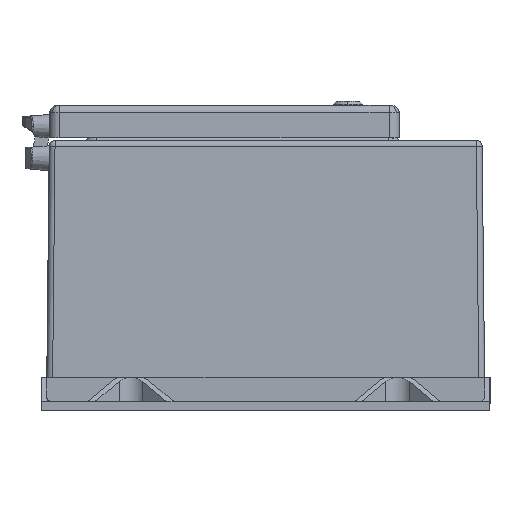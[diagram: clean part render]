
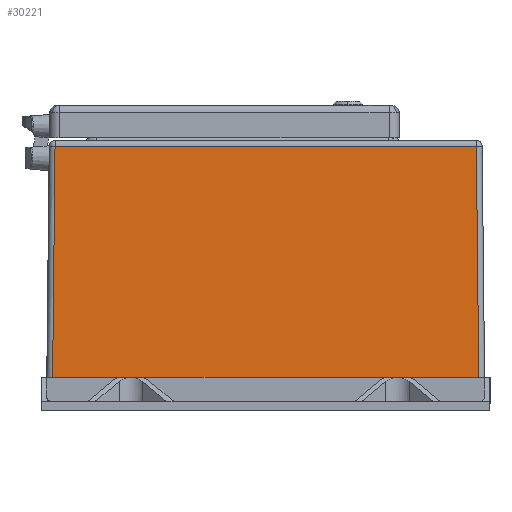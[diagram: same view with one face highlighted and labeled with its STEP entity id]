
A CAD part, front view. The second image highlights one B-rep face of the part: STEP entity #30221.
In plain terms, the highlighted planar face has unit normal (0, -1, 0.011).
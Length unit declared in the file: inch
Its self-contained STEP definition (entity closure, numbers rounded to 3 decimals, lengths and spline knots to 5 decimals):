
#1160 = AXIS2_PLACEMENT_3D ( 'NONE', #2378, #2388, #2389 ) ;
#2378 = CARTESIAN_POINT ( 'NONE',  ( -7.374, -10.199, 0. ) ) ;
#2383 = PLANE ( 'NONE',  #1160 ) ;
#2388 = DIRECTION ( 'NONE',  ( 0., -1., 0.01 ) ) ;
#2389 = DIRECTION ( 'NONE',  ( 0., -0.01, -1. ) ) ;
#4478 = CARTESIAN_POINT ( 'NONE',  ( 8.76108, -10.09507, 9.92429 ) ) ;
#4493 = CARTESIAN_POINT ( 'NONE',  ( -7.05108, -10.09507, 9.92429 ) ) ;
#4534 = CARTESIAN_POINT ( 'NONE',  ( 8.86501, -10.199, 0. ) ) ;
#5049 = FACE_OUTER_BOUND ( 'NONE', #19743, .T. ) ;
#8367 = VERTEX_POINT ( 'NONE', #15309 ) ;
#9240 = EDGE_CURVE ( 'NONE', #8367, #22484, #27859, .T. ) ;
#9243 = EDGE_CURVE ( 'NONE', #22314, #8367, #27863, .T. ) ;
#9244 = EDGE_CURVE ( 'NONE', #22276, #22314, #27865, .T. ) ;
#9245 = EDGE_CURVE ( 'NONE', #22484, #22276, #27867, .T. ) ;
#9802 = ORIENTED_EDGE ( 'NONE', *, *, #9244, .T. ) ;
#9811 = ORIENTED_EDGE ( 'NONE', *, *, #9243, .T. ) ;
#9816 = ORIENTED_EDGE ( 'NONE', *, *, #9240, .T. ) ;
#9827 = ORIENTED_EDGE ( 'NONE', *, *, #9245, .T. ) ;
#15309 = CARTESIAN_POINT ( 'NONE',  ( -7.15501, -10.199, 0. ) ) ;
#19743 = EDGE_LOOP ( 'NONE', ( #9802, #9811, #9816, #9827 ) ) ;
#22276 = VERTEX_POINT ( 'NONE', #4478 ) ;
#22314 = VERTEX_POINT ( 'NONE', #4493 ) ;
#22484 = VERTEX_POINT ( 'NONE', #4534 ) ;
#27859 = LINE ( 'NONE', #29575, #27860 ) ;
#27860 = VECTOR ( 'NONE', #29576, 39.37008 ) ;
#27862 = VECTOR ( 'NONE', #29585, 39.37008 ) ;
#27863 = LINE ( 'NONE', #29581, #27862 ) ;
#27865 = LINE ( 'NONE', #29586, #27866 ) ;
#27866 = VECTOR ( 'NONE', #29587, 39.37008 ) ;
#27867 = LINE ( 'NONE', #29588, #27868 ) ;
#27868 = VECTOR ( 'NONE', #29589, 39.37008 ) ;
#29575 = CARTESIAN_POINT ( 'NONE',  ( -7.374, -10.199, 0. ) ) ;
#29576 = DIRECTION ( 'NONE',  ( 1., 0., 0. ) ) ;
#29581 = CARTESIAN_POINT ( 'NONE',  ( -7.15504, -10.19902, -0.00229 ) ) ;
#29585 = DIRECTION ( 'NONE',  ( -0.01, -0.01, -1. ) ) ;
#29586 = CARTESIAN_POINT ( 'NONE',  ( -7.2678, -10.09507, 9.92429 ) ) ;
#29587 = DIRECTION ( 'NONE',  ( -1., 0., 0. ) ) ;
#29588 = CARTESIAN_POINT ( 'NONE',  ( 8.86323, -10.19722, 0.17002 ) ) ;
#29589 = DIRECTION ( 'NONE',  ( -0.01, 0.01, 1. ) ) ;
#30221 = ADVANCED_FACE ( 'NONE', ( #5049 ), #2383, .T. ) ;
